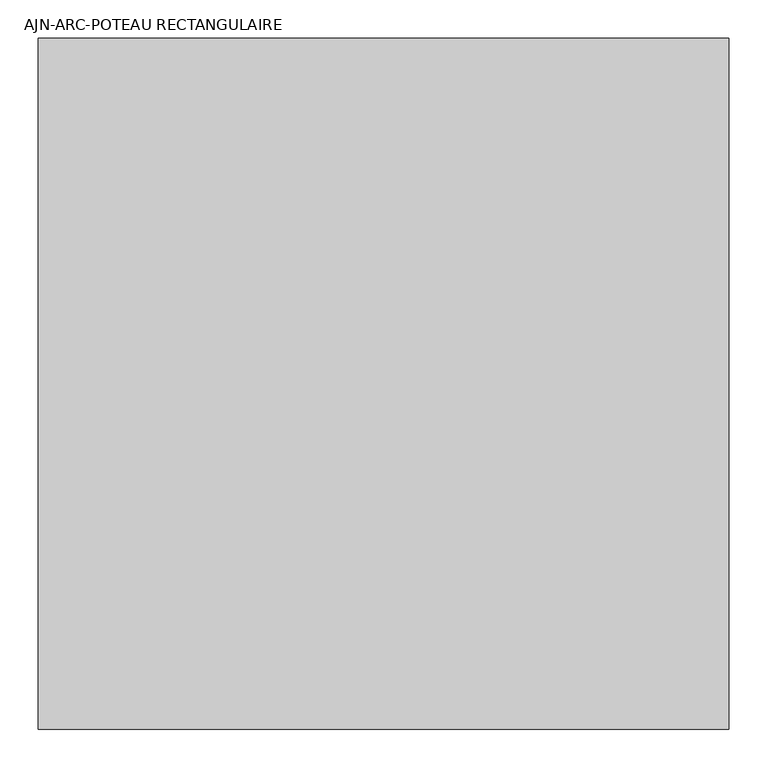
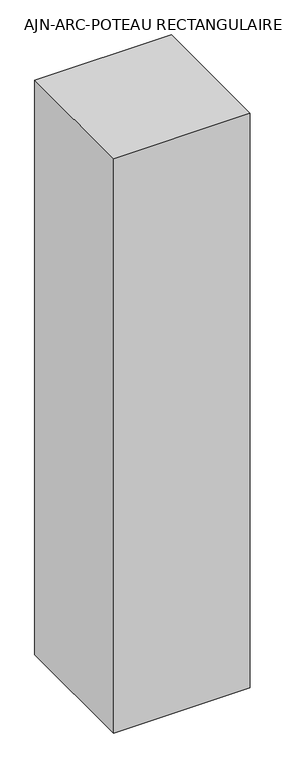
"""IFC4 building model written with IfcOpenShell, lengths in millimetres: column geometry, AJN-ARC-POTEAU RECTANGULAIRE : 900 mm x 900 mm."""

import ifcopenshell
import ifcopenshell.guid

model = None  # the IFC model being written
_history = None  # IfcOwnerHistory: only IFC2X3 demands one
_inside = {}  # id of a spatial element -> (the spatial element, [elements in it])
_under = {}  # id of a project, library or spatial element -> (it, [spatial elements below it])
_declared = {}  # id of a project -> (the project, [libraries it declares])
_typed = {}  # id of a type object -> (the type object, [elements of that type])
_made_of = {}  # id of a material, layer set ... -> (it, [elements and type objects made of it])


def new_model(schema):
    """Start an empty IFC model of exactly this schema.

    Asked for "IFC4X3", IfcOpenShell would pick the latest addendum, in which some entities
    have other attributes; the version numbers below select the first issue.
    IFC2X3 requires an IfcOwnerHistory on every rooted entity: one is made here for all.
    """
    global model, _history
    if schema == "IFC4X3":
        model = ifcopenshell.file(schema_version=(4, 3, 0, 0))
    else:
        model = ifcopenshell.file(schema=schema)
    _inside.clear()
    _under.clear()
    _declared.clear()
    _typed.clear()
    _made_of.clear()
    _history = None
    if model.schema == "IFC2X3":
        org = make("IfcOrganization", Name="unknown")
        user = make(
            "IfcPersonAndOrganization",
            ThePerson=make("IfcPerson", FamilyName="unknown"),
            TheOrganization=org,
        )
        app = make(
            "IfcApplication",
            ApplicationDeveloper=org,
            Version="unknown",
            ApplicationFullName="unknown",
            ApplicationIdentifier="unknown",
        )
        _history = make(
            "IfcOwnerHistory",
            OwningUser=user,
            OwningApplication=app,
            ChangeAction="ADDED",
            CreationDate=0,
        )
    return model


def make(cls, **values):
    """One entity of the class cls with the attributes given. An attribute that is None is left unset."""
    return model.create_entity(
        cls, **{name: value for name, value in values.items() if value is not None}
    )


def rooted(cls, **values):
    """An entity with a GlobalId (a new one), such as an element, a storey or a relation."""
    return make(cls, GlobalId=ifcopenshell.guid.new(), OwnerHistory=_history, **values)


def si_unit(unit_type, name, prefix=None):
    """IfcSIUnit, for example si_unit("LENGTHUNIT", "METRE", prefix="MILLI")."""
    return make("IfcSIUnit", UnitType=unit_type, Prefix=prefix, Name=name)


def assignment(units):
    """IfcUnitAssignment: the units of a project."""
    return None if units is None else make("IfcUnitAssignment", Units=units)


def point(xyz):
    """IfcCartesianPoint."""
    return None if xyz is None else make("IfcCartesianPoint", Coordinates=xyz)


def direction(xyz):
    """IfcDirection."""
    return None if xyz is None else make("IfcDirection", DirectionRatios=xyz)


def frame(location, z_axis=None, x_axis=None):
    """IfcAxis2Placement3D, a coordinate frame: its origin and axes. An axis left out is left unset."""
    return make(
        "IfcAxis2Placement3D",
        Location=point(location),
        Axis=direction(z_axis),
        RefDirection=direction(x_axis),
    )


def origin():
    """The frame at (0, 0, 0) with its axes left unset."""
    return frame((0.0, 0.0, 0.0))


def place(relative_to, where):
    """IfcLocalPlacement: puts the frame where relative to a parent placement (None: the world)."""
    return make(
        "IfcLocalPlacement", PlacementRelTo=relative_to, RelativePlacement=where
    )


def context(
    kind, dimensions, precision=None, world=None, true_north=None, identifier=None
):
    """IfcGeometricRepresentationContext, for example the 3D "Model" context."""
    return make(
        "IfcGeometricRepresentationContext",
        ContextIdentifier=identifier,
        ContextType=kind,
        CoordinateSpaceDimension=dimensions,
        Precision=precision,
        WorldCoordinateSystem=world,
        TrueNorth=true_north,
    )


def project(units=None, contexts=None):
    """IfcProject with its units and contexts."""
    return rooted(
        "IfcProject",
        Name="project",
        RepresentationContexts=contexts,
        UnitsInContext=assignment(units),
    )


def spatial(cls, under=None, at=None, **own):
    """A site, building, storey or space (cls), placed at a placement, below another one or the project."""
    s = rooted(cls, ObjectPlacement=at, **own)
    if under is not None:
        _under.setdefault(under.id(), (under, []))[1].append(s)
    return s


def polyline(points):
    """IfcPolyline through the points."""
    return make("IfcPolyline", Points=[point(p) for p in points])


def outline(outer, holes=None, kind="AREA"):
    """IfcArbitraryClosedProfileDef: a profile drawn as a closed curve; with holes, ...WithVoids."""
    if holes is None:
        return make("IfcArbitraryClosedProfileDef", ProfileType=kind, OuterCurve=outer)
    return make(
        "IfcArbitraryProfileDefWithVoids",
        ProfileType=kind,
        OuterCurve=outer,
        InnerCurves=holes,
    )


def extrude(swept, where, along, depth):
    """IfcExtrudedAreaSolid: the profile swept, set in the frame where, extruded along a direction by depth."""
    return make(
        "IfcExtrudedAreaSolid",
        SweptArea=swept,
        Position=where,
        ExtrudedDirection=direction(along),
        Depth=depth,
    )


def shape(context_of_items, identifier, shape_type, items):
    """IfcShapeRepresentation: the items that make up one representation, for example the "Body"."""
    return make(
        "IfcShapeRepresentation",
        ContextOfItems=context_of_items,
        RepresentationIdentifier=identifier,
        RepresentationType=shape_type,
        Items=items,
    )


def source(mapping_origin, context_of_items, identifier, shape_type, items):
    """IfcRepresentationMap: a shape defined once, which mapped items show again and again."""
    return make(
        "IfcRepresentationMap",
        MappingOrigin=mapping_origin,
        MappedRepresentation=shape(context_of_items, identifier, shape_type, items),
    )


def transform(
    local_origin,
    x_axis=None,
    y_axis=None,
    z_axis=None,
    scale=None,
    scale2=None,
    scale3=None,
    uniform=True,
):
    """IfcCartesianTransformationOperator3D, or its non-uniform kind. x_axis, y_axis, z_axis: its Axis1, 2, 3."""
    if uniform:
        return make(
            "IfcCartesianTransformationOperator3D",
            Axis1=direction(x_axis),
            Axis2=direction(y_axis),
            LocalOrigin=point(local_origin),
            Scale=scale,
            Axis3=direction(z_axis),
        )
    return make(
        "IfcCartesianTransformationOperator3DnonUniform",
        Axis1=direction(x_axis),
        Axis2=direction(y_axis),
        LocalOrigin=point(local_origin),
        Scale=scale,
        Axis3=direction(z_axis),
        Scale2=scale2,
        Scale3=scale3,
    )


def mapped(mapping_source, mapping_target):
    """IfcMappedItem: shows the shape of a source again, moved by a transform."""
    return make(
        "IfcMappedItem", MappingSource=mapping_source, MappingTarget=mapping_target
    )


def made_of(thing, what):
    """Note that an element or type object is made of a material, layer set ...; save() writes the relation."""
    if what is not None:
        _made_of.setdefault(what.id(), (what, []))[1].append(thing)
    return thing


def element(
    cls,
    number,
    at=None,
    inside=None,
    cuts=None,
    type_object=None,
    material=None,
    context=None,
    identifier="Body",
    shape_type=None,
    held_by="IfcProductDefinitionShape",
    body=None,
    shapes=None,
    **own,
):
    """One element of the class cls, such as IfcWall. Its Tag is "e" and its number.

    at: its placement. inside: the storey or other place that contains it. cuts: it is an
    opening in that element (IfcRelVoidsElement). A single representation is given by context,
    identifier, shape_type and body (its items); several are given by shapes. held_by: the class
    of the entity that holds the representations. save() writes the other relations.
    """
    e = rooted(cls, Tag="e%d" % number, ObjectPlacement=at, **own)
    if body is not None:
        shapes = [shape(context, identifier, shape_type, body)]
    if shapes is not None:
        e.Representation = make(held_by, Representations=shapes)
    if inside is not None:
        _inside.setdefault(inside.id(), (inside, []))[1].append(e)
    if cuts is not None:
        rooted(
            "IfcRelVoidsElement", RelatingBuildingElement=cuts, RelatedOpeningElement=e
        )
    if type_object is not None:
        _typed.setdefault(type_object.id(), (type_object, []))[1].append(e)
    return made_of(e, material)


def aggregate(whole, parts):
    """IfcRelAggregates: a whole, such as a stair, and the parts it consists of."""
    return rooted("IfcRelAggregates", RelatingObject=whole, RelatedObjects=parts)


def save(model, path):
    """Write the relations noted so far, then the file.

    IfcRelAggregates (storeys below a building ...), IfcRelContainedInSpatialStructure (elements
    in a storey), IfcRelDefinesByType, IfcRelAssociatesMaterial and IfcRelDeclares: one each for
    every whole, place, type object, material and project.
    """
    for whole, parts in _under.values():
        aggregate(whole, parts)
    for where, things in _inside.values():
        rooted(
            "IfcRelContainedInSpatialStructure",
            RelatedElements=things,
            RelatingStructure=where,
        )
    for kind, things in _typed.values():
        rooted("IfcRelDefinesByType", RelatedObjects=things, RelatingType=kind)
    for what, things in _made_of.values():
        rooted("IfcRelAssociatesMaterial", RelatedObjects=things, RelatingMaterial=what)
    for by, libraries in _declared.values():
        rooted("IfcRelDeclares", RelatingContext=by, RelatedDefinitions=libraries)
    model.write(path)


def ajn_arc_poteau_rectangulaire_9fee269e(model_context):
    return source(origin(), model_context, "Body", "SweptSolid", [
        extrude(outline(polyline([(450.0, 450.0), (450.0, -450.0), (-450.0, -450.0), (-450.0, 450.0), (450.0, 450.0)])), frame((0.0, 0.0, 5999.9999686), z_axis=(0.0, 0.0, 1.0), x_axis=(1.0, 0.0, 0.0)), (0.0, 0.0, 1.0), 4000.0),
    ])


if __name__ == "__main__":
    model = new_model("IFC4")
    model_context = context("Model", 3, world=origin())
    ifc_project = project(units=[si_unit("LENGTHUNIT", "METRE", prefix="MILLI")], contexts=[model_context])
    site = spatial("IfcSite", under=ifc_project)
    building = spatial("IfcBuilding", under=site)
    placement = place(None, origin())
    ajn_arc_poteau_rectangulaire_shape = ajn_arc_poteau_rectangulaire_9fee269e(model_context)
    element("IfcColumn", 1, ObjectType="AJN-ARC-POTEAU RECTANGULAIRE : 900 mm x 900 mm", at=placement, inside=building, context=model_context, shape_type="MappedRepresentation", body=[
        mapped(ajn_arc_poteau_rectangulaire_shape, transform((0.0, 0.0, 0.0), x_axis=(1.0, 0.0, 0.0), y_axis=(0.0, 1.0, 0.0), z_axis=(0.0, 0.0, 1.0))),
    ])
    save(model, "model.ifc")
